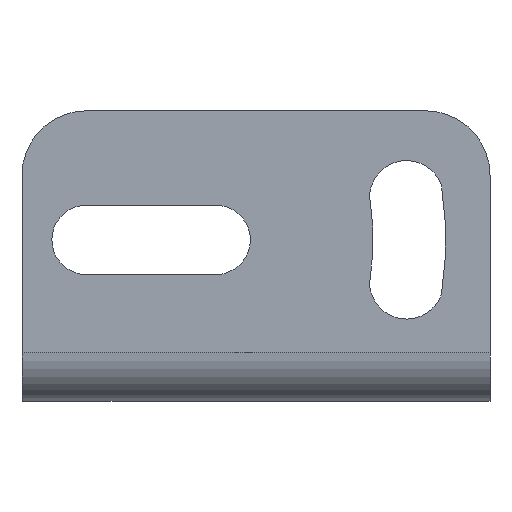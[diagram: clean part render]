
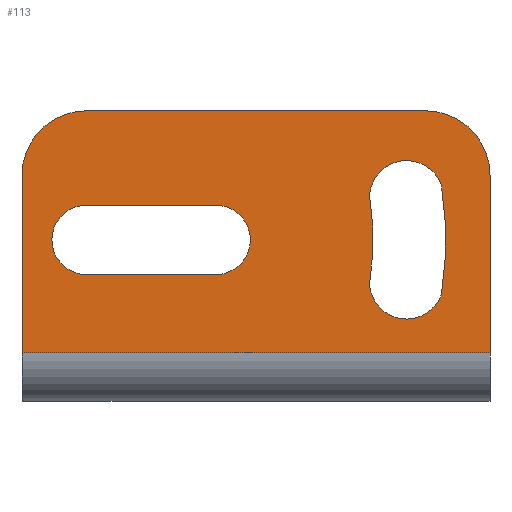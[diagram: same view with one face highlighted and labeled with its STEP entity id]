
A CAD part, front view. The second image highlights one B-rep face of the part: STEP entity #113.
In plain terms, the highlighted planar face has unit normal (0, -1, 0).
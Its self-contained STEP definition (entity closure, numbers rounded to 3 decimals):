
#113 = ADVANCED_FACE( '', ( #201, #202, #203 ), #204, .T. );
#201 = FACE_BOUND( '', #291, .T. );
#202 = FACE_BOUND( '', #292, .T. );
#203 = FACE_OUTER_BOUND( '', #293, .T. );
#204 = PLANE( '', #294 );
#291 = EDGE_LOOP( '', ( #609, #610, #611, #612 ) );
#292 = EDGE_LOOP( '', ( #613, #614, #615, #616 ) );
#293 = EDGE_LOOP( '', ( #617, #618, #619, #620, #621, #622 ) );
#294 = AXIS2_PLACEMENT_3D( '', #623, #624, #625 );
#609 = ORIENTED_EDGE( '', *, *, #679, .T. );
#610 = ORIENTED_EDGE( '', *, *, #676, .T. );
#611 = ORIENTED_EDGE( '', *, *, #673, .T. );
#612 = ORIENTED_EDGE( '', *, *, #682, .T. );
#613 = ORIENTED_EDGE( '', *, *, #691, .T. );
#614 = ORIENTED_EDGE( '', *, *, #688, .T. );
#615 = ORIENTED_EDGE( '', *, *, #685, .T. );
#616 = ORIENTED_EDGE( '', *, *, #694, .T. );
#617 = ORIENTED_EDGE( '', *, *, #697, .T. );
#618 = ORIENTED_EDGE( '', *, *, #707, .T. );
#619 = ORIENTED_EDGE( '', *, *, #730, .F. );
#620 = ORIENTED_EDGE( '', *, *, #724, .F. );
#621 = ORIENTED_EDGE( '', *, *, #701, .T. );
#622 = ORIENTED_EDGE( '', *, *, #732, .T. );
#623 = CARTESIAN_POINT( '', ( 14.5, 0., 8. ) );
#624 = DIRECTION( '', ( 0., -1., 0. ) );
#625 = DIRECTION( '', ( 0., 0., 1. ) );
#673 = EDGE_CURVE( '', #813, #811, #814, .T. );
#676 = EDGE_CURVE( '', #818, #813, #819, .T. );
#679 = EDGE_CURVE( '', #823, #818, #824, .T. );
#682 = EDGE_CURVE( '', #811, #823, #827, .T. );
#685 = EDGE_CURVE( '', #833, #831, #834, .T. );
#688 = EDGE_CURVE( '', #838, #833, #839, .T. );
#691 = EDGE_CURVE( '', #843, #838, #844, .T. );
#694 = EDGE_CURVE( '', #831, #843, #847, .T. );
#697 = EDGE_CURVE( '', #853, #851, #854, .T. );
#701 = EDGE_CURVE( '', #861, #859, #862, .T. );
#707 = EDGE_CURVE( '', #851, #870, #872, .T. );
#724 = EDGE_CURVE( '', #861, #900, #901, .T. );
#730 = EDGE_CURVE( '', #900, #870, #907, .T. );
#732 = EDGE_CURVE( '', #859, #853, #909, .T. );
#811 = VERTEX_POINT( '', #1003 );
#813 = VERTEX_POINT( '', #1006 );
#814 = CIRCLE( '', #1007, 2.3 );
#818 = VERTEX_POINT( '', #1012 );
#819 = CIRCLE( '', #1013, 17.75 );
#823 = VERTEX_POINT( '', #1018 );
#824 = CIRCLE( '', #1019, 2.3 );
#827 = CIRCLE( '', #1023, 22.25 );
#831 = VERTEX_POINT( '', #1028 );
#833 = VERTEX_POINT( '', #1031 );
#834 = LINE( '', #1032, #1033 );
#838 = VERTEX_POINT( '', #1038 );
#839 = CIRCLE( '', #1039, 2.15 );
#843 = VERTEX_POINT( '', #1045 );
#844 = LINE( '', #1046, #1047 );
#847 = CIRCLE( '', #1051, 2.15 );
#851 = VERTEX_POINT( '', #1055 );
#853 = VERTEX_POINT( '', #1058 );
#854 = CIRCLE( '', #1059, 4. );
#859 = VERTEX_POINT( '', #1065 );
#861 = VERTEX_POINT( '', #1068 );
#862 = CIRCLE( '', #1069, 4. );
#870 = VERTEX_POINT( '', #1080 );
#872 = LINE( '', #1082, #1083 );
#900 = VERTEX_POINT( '', #1123 );
#901 = LINE( '', #1124, #1125 );
#907 = LINE( '', #1134, #1135 );
#909 = LINE( '', #1138, #1139 );
#1003 = CARTESIAN_POINT( '', ( 11.488, 0., 3.402 ) );
#1006 = CARTESIAN_POINT( '', ( 7.034, 0., 2.762 ) );
#1007 = AXIS2_PLACEMENT_3D( '', #1249, #1250, #1251 );
#1012 = CARTESIAN_POINT( '', ( 7.034, 0., -2.762 ) );
#1013 = AXIS2_PLACEMENT_3D( '', #1256, #1257, #1258 );
#1018 = CARTESIAN_POINT( '', ( 11.488, 0., -3.402 ) );
#1019 = AXIS2_PLACEMENT_3D( '', #1263, #1264, #1265 );
#1023 = AXIS2_PLACEMENT_3D( '', #1270, #1271, #1272 );
#1028 = CARTESIAN_POINT( '', ( -2.5, 0., 2.15 ) );
#1031 = CARTESIAN_POINT( '', ( -10.5, 0., 2.15 ) );
#1032 = CARTESIAN_POINT( '', ( 6., 0., 2.15 ) );
#1033 = VECTOR( '', #1275, 1. );
#1038 = CARTESIAN_POINT( '', ( -10.5, 0., -2.15 ) );
#1039 = AXIS2_PLACEMENT_3D( '', #1280, #1281, #1282 );
#1045 = CARTESIAN_POINT( '', ( -2.5, 0., -2.15 ) );
#1046 = CARTESIAN_POINT( '', ( 2., 0., -2.15 ) );
#1047 = VECTOR( '', #1285, 1. );
#1051 = AXIS2_PLACEMENT_3D( '', #1290, #1291, #1292 );
#1055 = CARTESIAN_POINT( '', ( -14.5, 0., 4. ) );
#1058 = CARTESIAN_POINT( '', ( -10.5, 0., 8. ) );
#1059 = AXIS2_PLACEMENT_3D( '', #1297, #1298, #1299 );
#1065 = CARTESIAN_POINT( '', ( 10.5, 0., 8. ) );
#1068 = CARTESIAN_POINT( '', ( 14.5, 0., 4. ) );
#1069 = AXIS2_PLACEMENT_3D( '', #1305, #1306, #1307 );
#1080 = CARTESIAN_POINT( '', ( -14.5, 0., -7. ) );
#1082 = CARTESIAN_POINT( '', ( -14.5, 0., 8. ) );
#1083 = VECTOR( '', #1317, 1. );
#1123 = CARTESIAN_POINT( '', ( 14.5, 0., -7. ) );
#1124 = CARTESIAN_POINT( '', ( 14.5, 0., 8. ) );
#1125 = VECTOR( '', #1342, 1. );
#1134 = CARTESIAN_POINT( '', ( 14.5, 0., -7. ) );
#1135 = VECTOR( '', #1352, 1. );
#1138 = CARTESIAN_POINT( '', ( 14.5, 0., 8. ) );
#1139 = VECTOR( '', #1354, 1. );
#1249 = CARTESIAN_POINT( '', ( 9.329, 0., 2.611 ) );
#1250 = DIRECTION( '', ( 0., 1., 0. ) );
#1251 = DIRECTION( '', ( -0.998, 0., 0.066 ) );
#1256 = CARTESIAN_POINT( '', ( -10.5, 0., 0. ) );
#1257 = DIRECTION( '', ( 0., -1., 0. ) );
#1258 = DIRECTION( '', ( 0.988, 0., -0.156 ) );
#1263 = CARTESIAN_POINT( '', ( 9.329, 0., -2.611 ) );
#1264 = DIRECTION( '', ( 0., 1., 0. ) );
#1265 = DIRECTION( '', ( 0.939, 0., -0.344 ) );
#1270 = CARTESIAN_POINT( '', ( -10.5, 0., 0. ) );
#1271 = DIRECTION( '', ( 0., 1., 0. ) );
#1272 = DIRECTION( '', ( 0.988, 0., 0.153 ) );
#1275 = DIRECTION( '', ( 1., 0., 0. ) );
#1280 = CARTESIAN_POINT( '', ( -10.5, 0., 0. ) );
#1281 = DIRECTION( '', ( 0., 1., 0. ) );
#1282 = DIRECTION( '', ( 0., 0., -1. ) );
#1285 = DIRECTION( '', ( -1., 0., 0. ) );
#1290 = CARTESIAN_POINT( '', ( -2.5, 0., 0. ) );
#1291 = DIRECTION( '', ( 0., 1., 0. ) );
#1292 = DIRECTION( '', ( 0., 0., 1. ) );
#1297 = CARTESIAN_POINT( '', ( -10.5, 0., 4. ) );
#1298 = DIRECTION( '', ( 0., -1., 0. ) );
#1299 = DIRECTION( '', ( 0., 0., 1. ) );
#1305 = CARTESIAN_POINT( '', ( 10.5, 0., 4. ) );
#1306 = DIRECTION( '', ( 0., -1., 0. ) );
#1307 = DIRECTION( '', ( 1., 0., 0. ) );
#1317 = DIRECTION( '', ( 0., 0., -1. ) );
#1342 = DIRECTION( '', ( 0., 0., -1. ) );
#1352 = DIRECTION( '', ( -1., 0., 0. ) );
#1354 = DIRECTION( '', ( -1., 0., 0. ) );
